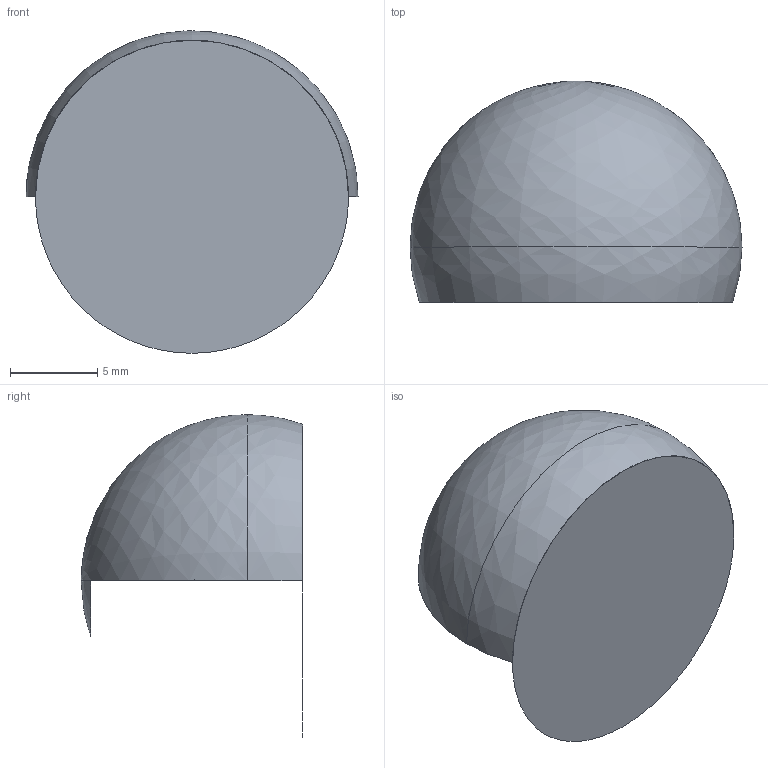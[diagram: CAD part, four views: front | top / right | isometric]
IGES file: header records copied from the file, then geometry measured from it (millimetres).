
Start section: SolidWorks IGES file using analytic representation for surfaces
Global section: file name: D:\Solid_parts\MECHeDESIGN\Bal-Tec\Catalog 105-A\Distribution\IGES\750-TB.IGS; native system: SolidWorks 2005 by SolidWorks Corporation; preprocessor: SolidWorks 2005 by SolidWorks Corporation; author: rvillegas; date: 061205.185514; units: inch
Bounding box: 19.05 x 12.7 x 18.5 mm (x, y, z)
Surface area: 935 mm2 (no closed solid volume)
Topology: 0 solids, 0 shells, 3 faces, 40 edges, 39 vertices
Faces by surface type: revolution 2, bspline 1
